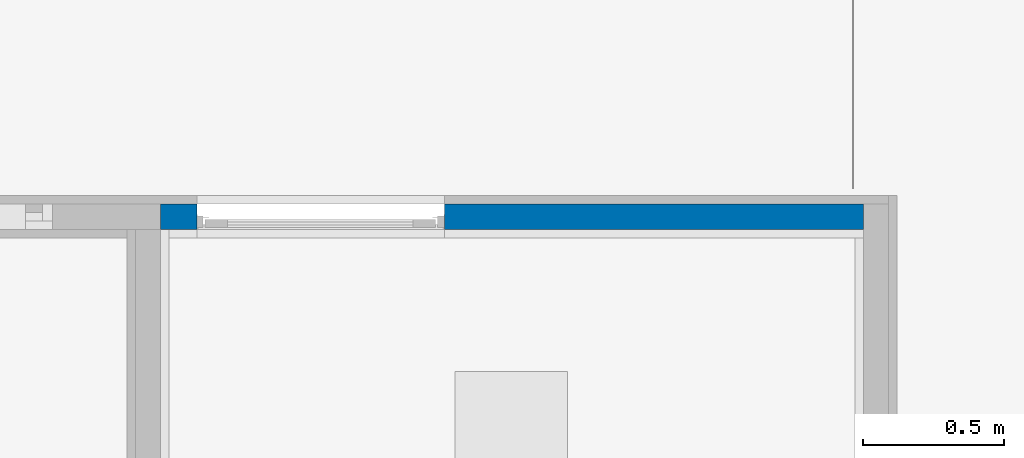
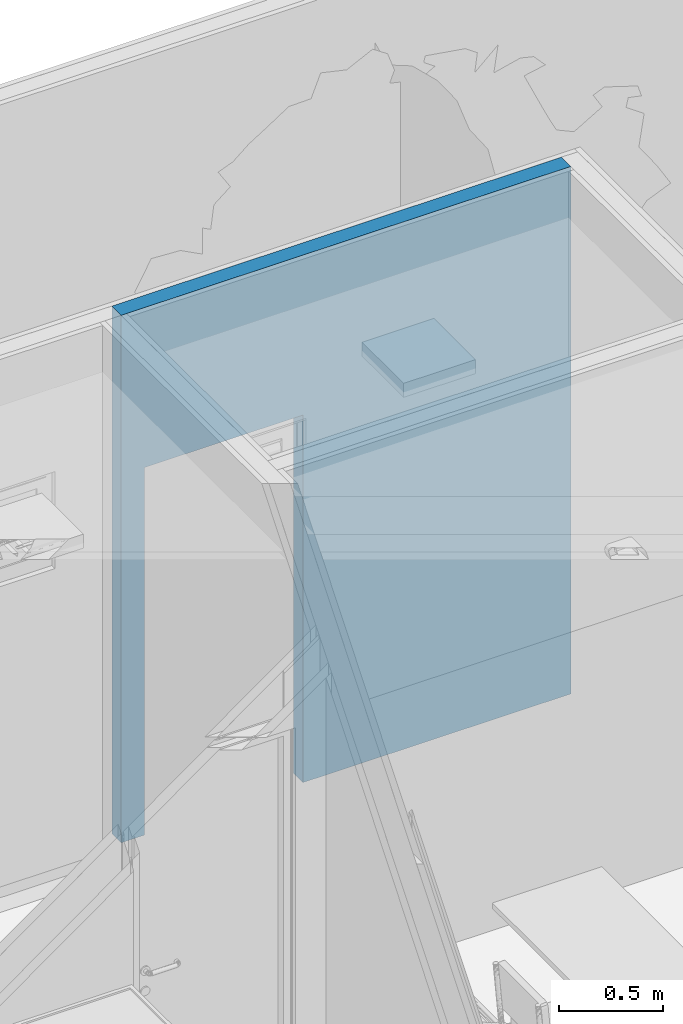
# One storey, part 44 of 155: 1 wall, 2 openings.
"""IFC2X3 building model written with IfcOpenShell, lengths in metres."""

from ifc_helpers import new_model, entity, si_unit, converted_unit, derived_unit, direction, frame, frame_2d, origin, place, context, subcontext, project, spatial, rectangle, extrude, material, layer, layer_set, layer_usage, type_object, element, save


model = new_model("IFC2X3")

# Units and contexts
model_context = context("Model", 3, precision=1e-05, world=origin(), true_north=direction((6.12303176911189e-17, 1.0)))
body_context = subcontext(model_context, "Body", "Model", "MODEL_VIEW")
ifc_project = project(units=[si_unit("LENGTHUNIT", "METRE"), si_unit("AREAUNIT", "SQUARE_METRE"), si_unit("VOLUMEUNIT", "CUBIC_METRE"), converted_unit("PLANEANGLEUNIT", "DEGREE", entity("IfcRatioMeasure", 0.0174532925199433), si_unit("PLANEANGLEUNIT", "RADIAN"), dimensions=[0, 0, 0, 0, 0, 0, 0]), si_unit("MASSUNIT", "GRAM", prefix="KILO"), derived_unit("MASSDENSITYUNIT", [(si_unit("MASSUNIT", "GRAM", prefix="KILO"), 1), (si_unit("LENGTHUNIT", "METRE"), -3)]), si_unit("TIMEUNIT", "SECOND"), si_unit("FREQUENCYUNIT", "HERTZ"), si_unit("THERMODYNAMICTEMPERATUREUNIT", "DEGREE_CELSIUS"), derived_unit("THERMALTRANSMITTANCEUNIT", [(si_unit("MASSUNIT", "GRAM", prefix="KILO"), 1), (si_unit("THERMODYNAMICTEMPERATUREUNIT", "KELVIN"), -1), (si_unit("TIMEUNIT", "SECOND"), -3)]), derived_unit("VOLUMETRICFLOWRATEUNIT", [(si_unit("LENGTHUNIT", "METRE"), 3), (si_unit("TIMEUNIT", "SECOND"), -1)]), si_unit("ELECTRICCURRENTUNIT", "AMPERE"), si_unit("ELECTRICVOLTAGEUNIT", "VOLT"), si_unit("POWERUNIT", "WATT"), si_unit("FORCEUNIT", "NEWTON", prefix="KILO"), si_unit("ILLUMINANCEUNIT", "LUX"), si_unit("LUMINOUSFLUXUNIT", "LUMEN"), si_unit("LUMINOUSINTENSITYUNIT", "CANDELA"), derived_unit("USERDEFINED", [(si_unit("MASSUNIT", "GRAM", prefix="KILO"), -1), (si_unit("LENGTHUNIT", "METRE"), -2), (si_unit("TIMEUNIT", "SECOND"), 3), (si_unit("LUMINOUSFLUXUNIT", "LUMEN"), 1)]), derived_unit("LINEARVELOCITYUNIT", [(si_unit("LENGTHUNIT", "METRE"), 1), (si_unit("TIMEUNIT", "SECOND"), -1)]), si_unit("PRESSUREUNIT", "PASCAL"), derived_unit("USERDEFINED", [(si_unit("LENGTHUNIT", "METRE"), -2), (si_unit("MASSUNIT", "GRAM", prefix="KILO"), 1), (si_unit("TIMEUNIT", "SECOND"), -2)])], contexts=[model_context])

# Site, building, storey
site_placement = place(None, frame((26.9889013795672, -17.5624287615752, 0.0)))
site = spatial("IfcSite", under=ifc_project, at=site_placement, Name="Default", CompositionType="ELEMENT")
building_placement = place(site_placement, origin())
building = spatial("IfcBuilding", under=site, at=building_placement, Name="C. C. L. Monsenhor Antônio Sampaio", CompositionType="ELEMENT")
storey_placement = place(building_placement, frame((0.0, 0.0, 1.19999999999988)))
storey = spatial("IfcBuildingStorey", under=building, at=storey_placement, Name="Nível 1.2", CompositionType="ELEMENT", Elevation=1.19999999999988)

# Wall, openings
ifc_material = material(Name="ALVENARIA")
ifc_layer = layer(ifc_material, 0.09)
ifc_layer_set = layer_set([ifc_layer], Name="Parede básica:ENucleo parede 15cm")
ifc_layer_usage = layer_usage(ifc_layer_set, "AXIS2", "POSITIVE", -0.045)
wall_type = type_object("IfcWallType", Name="Parede básica:ENucleo parede 15cm", PredefinedType="STANDARD", material=ifc_layer_set)
wall_placement = place(storey_placement, frame((3.84961597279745, -8.72806634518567, 0.0)))
wall = element("IfcWallStandardCase", 1, at=wall_placement, inside=storey, type_object=wall_type, material=ifc_layer_usage, Name="Parede básica:ENucleo parede 15cm", ObjectType="Parede básica:ENucleo parede 15cm", context=body_context, shape_type="SweptSolid", body=[
    extrude(rectangle(XDim=2.49983173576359, YDim=0.089999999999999, at=frame_2d((1.24991586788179, 0.0), x_axis=(-1.0, 0.0))), origin(), (0.0, 0.0, 1.0), 3.10000000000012),
])
opening_1_placement = place(wall_placement, origin())
element("IfcOpeningElement", 2, at=opening_1_placement, cuts=wall, Name="Parede básica:ENucleo parede 15cm", ObjectType="Opening", context=body_context, shape_type="SweptSolid", body=[
    extrude(rectangle(XDim=0.570000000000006, YDim=1.56999999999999, at=frame_2d((-1.11022302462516e-16, 2.77555756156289e-16), x_axis=(0.0, 1.0))), frame((-1.17016826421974, -1.569, 2.05000000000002), z_axis=(0.0, 1.0, 0.0), x_axis=(-1.0, 0.0, 0.0)), (0.0, 0.0, 1.0), 3.048),
])
opening_2_placement = place(wall_placement, frame((1.01, 0.044999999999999, 0.0)))
element("IfcOpeningElement", 3, at=opening_2_placement, cuts=wall, Name="Porta de abrir com veneziana ventilada - PAVV:LIXEIRA E CASA DE GÁS:1", ObjectType="Opening", context=body_context, shape_type="SweptSolid", body=[
    extrude(rectangle(XDim=2.15999999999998, YDim=0.88, at=frame_2d((1.07999999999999, 0.44), x_axis=(1.0, 0.0))), frame((0.0, 0.0, 0.0), z_axis=(0.0, -1.0, 0.0), x_axis=(0.0, 0.0, 1.0)), (0.0, 0.0, 1.0), 0.09),
])

save(model, "model.ifc")
